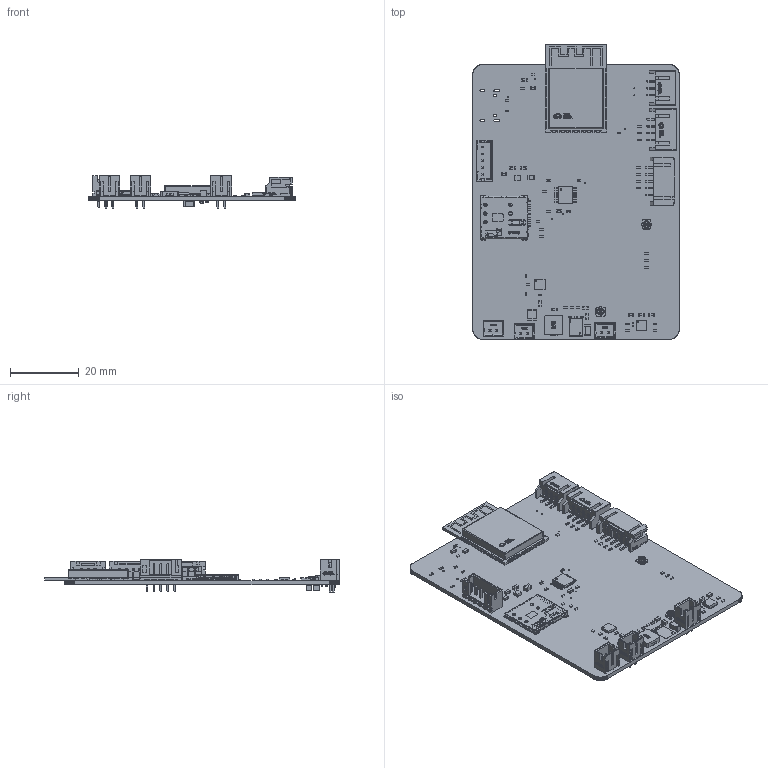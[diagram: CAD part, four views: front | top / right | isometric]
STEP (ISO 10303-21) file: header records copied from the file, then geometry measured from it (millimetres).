
FILE_DESCRIPTION(('Flux electronic assembly'),'2;1');
FILE_NAME('sim7670g-ai-voice-terminal.step','2026-08-27T21:06:52',( 'Flux'),('Flux'),'Flux STEP processor', 'Flux to STEP converter','Unknown');
FILE_SCHEMA(('AUTOMOTIVE_DESIGN { 1 0 10303 214 1 1 1 1 }'));
Length unit declared in the file: millimetre
Products named in the file (52): sim7670g-ai-voice-terminal 1; 3DSMD_0402_1005Metric-d919a960-746f-c955-fbea-1b7ba0394ff3; C_0402_1005Metric; 3DSMD_0603_1608Metric-b4a38289-62c0-b440-ad8d-38078632b68e; C_0603_1608Metric; 3DSMD_0402_1005Metric-f67a8003-8022-4cca-213f-88262e58f588; R_0402_1005Metric; 3DSMD_0805_2012Metric-d796f486-721b-8ee4-6c9f-f817c4ccdb82; L_0805_2012Metric; ESP32-S3-WROOM-1-N8R2-ESP32-S3-WROOM-1-N8R2.3dshapes-WIRELM-SMD_
ESP32-S3-WROOM-1-e26550e8-3694-40d5-9f7c-0b9ffa9419f8; WIRELM-SMD_ESP32-S3-WROOM-1; B2B-PH-K-S-LF--SN--B2B-PH-K-S-LF--SN-.3dshapes-CONN-TH_
PH2.00-LI-2P-827340b0-10e2-46db-9f57-f662a3acd58b; CONN-TH_PH2.00-LI-2P; TSSOP-14_4.4x5mm_P0.65mm-310732ec-6f9d-2a52-f921-f19bd74fcc2a; TSSOP_14_44x5mm_P065mm; S5B-PH-SM4-TB-LF--SN--S5B-PH-SM4-TB-LF--SN-.3dshapes-CONN-SMD_
S5B-PH-SM4-TB-LF-SN-748418ff-11bb-4f1b-a792-5fcd89f1ad8c; CONN-SMD_S5B-PH-SM4-TB-LF-SN; S3B-PH-SM4-TB-LF--SN--S3B-PH-SM4-TB-LF--SN-.3dshapes-CONN-SMD_
PH2.00-WS-3P-b12ac662-367f-495b-907a-c6886eb45302; CONN-SMD_PH2.00-WS-3P; U.FL-R-SMT-1_10_-b7201885-8c26-4f42-8768-9e48befc7bdf; U.FL-R-SMT(10); SIM8066-6-1-14-01-A-b3143bda-cfda-4757-a3f3-f270ecfa78c4.stp; SIM8066-6-1-14-01-A; SIM8066-6-1-14-01-A_PART2; SIM8066-6-1-14-01-A_PART1; 3DSMD_1206_3216Metric-a8e22f5b-0632-399f-a2e8-830354459607; C_1206_3216Metric; MHCI05030-2R2M-R8-MHCI05030-2R2M-R8.3dshapes-IND-SMD_
L5.7-W5.4-H1.5-2f0050a8-4340-4409-aef2-16083adc7b04; IND-SMD_L5.7-W5.4-H1.5; TPS6282533DMQR-3f4e75b6-7a52-444a-87c2-b246e5c119b4.stp; DMQ0006A_ASM; BODY-SON; FRAME-DMQ0006A; PIN1-ID; CS3225X7R226K250NRL-CS3225X7R226K250NRL.3dshapes-C1210_
L3.2-W2.5-H0.9-7aaa5f47-6a14-4c6a-9bf6-b99dc58966ae; C1210_L3.2-W2.5-H0.9; B5B-PH-K-S-LF--SN---3DModel-STEP-56544-3347362e-049f-4032-8aff-2a7c0fac
6a3b; B5B-PH-K-S(LF)(SN); LTC3113EDHD-TRPBF-LTC3113EDHD-TRPBF.3dshapes-DFN-16_
L5.0-W4.0-H0.8-P0.50-BL-EP-2b0871d8-2314-41a8-9c66-40242f059a4f; DFN-16_L5.0-W4.0-H0.8-P0.50-BL-EP ...
Assembly tree (111 placements, depth 4):
  sim7670g-ai-voice-terminal 1
    3DSMD_0402_1005Metric-d919a960-746f-c955-fbea-1b7ba0394ff3  x11
      C_0402_1005Metric
    3DSMD_0603_1608Metric-b4a38289-62c0-b440-ad8d-38078632b68e  x14
      C_0603_1608Metric
    3DSMD_0402_1005Metric-f67a8003-8022-4cca-213f-88262e58f588  x33
      R_0402_1005Metric
    3DSMD_0805_2012Metric-d796f486-721b-8ee4-6c9f-f817c4ccdb82
      L_0805_2012Metric
    ESP32-S3-WROOM-1-N8R2-ESP32-S3-WROOM-1-N8R2.3dshapes-WIRELM-SMD_
ESP32-S3-WROOM-1-e26550e8-3694-40d5-9f7c-0b9ffa9419f8
      WIRELM-SMD_ESP32-S3-WROOM-1
    B2B-PH-K-S-LF--SN--B2B-PH-K-S-LF--SN-.3dshapes-CONN-TH_
PH2.00-LI-2P-827340b0-10e2-46db-9f57-f662a3acd58b  x3
      CONN-TH_PH2.00-LI-2P
    TSSOP-14_4.4x5mm_P0.65mm-310732ec-6f9d-2a52-f921-f19bd74fcc2a
      TSSOP_14_44x5mm_P065mm
    S5B-PH-SM4-TB-LF--SN--S5B-PH-SM4-TB-LF--SN-.3dshapes-CONN-SMD_
S5B-PH-SM4-TB-LF-SN-748418ff-11bb-4f1b-a792-5fcd89f1ad8c
      CONN-SMD_S5B-PH-SM4-TB-LF-SN
    S3B-PH-SM4-TB-LF--SN--S3B-PH-SM4-TB-LF--SN-.3dshapes-CONN-SMD_
PH2.00-WS-3P-b12ac662-367f-495b-907a-c6886eb45302
      CONN-SMD_PH2.00-WS-3P
    U.FL-R-SMT-1_10_-b7201885-8c26-4f42-8768-9e48befc7bdf  x2
      U.FL-R-SMT(10)
    SIM8066-6-1-14-01-A-b3143bda-cfda-4757-a3f3-f270ecfa78c4.stp
      SIM8066-6-1-14-01-A
        SIM8066-6-1-14-01-A_PART2
        SIM8066-6-1-14-01-A_PART1
    3DSMD_1206_3216Metric-a8e22f5b-0632-399f-a2e8-830354459607  x3
      C_1206_3216Metric
    MHCI05030-2R2M-R8-MHCI05030-2R2M-R8.3dshapes-IND-SMD_
L5.7-W5.4-H1.5-2f0050a8-4340-4409-aef2-16083adc7b04
      IND-SMD_L5.7-W5.4-H1.5
    TPS6282533DMQR-3f4e75b6-7a52-444a-87c2-b246e5c119b4.stp
      DMQ0006A_ASM
        BODY-SON
        FRAME-DMQ0006A
        PIN1-ID
    CS3225X7R226K250NRL-CS3225X7R226K250NRL.3dshapes-C1210_
L3.2-W2.5-H0.9-7aaa5f47-6a14-4c6a-9bf6-b99dc58966ae
      C1210_L3.2-W2.5-H0.9
    B5B-PH-K-S-LF--SN---3DModel-STEP-56544-3347362e-049f-4032-8aff-2a7c0fac
6a3b
      B5B-PH-K-S(LF)(SN)
        B5B-PH-K-S(LF)(SN)
    LTC3113EDHD-TRPBF-LTC3113EDHD-TRPBF.3dshapes-DFN-16_
L5.0-W4.0-H0.8-P0.50-BL-EP-2b0871d8-2314-41a8-9c66-40242f059a4f
      DFN-16_L5.0-W4.0-H0.8-P0.50-BL-EP
    MAX98357AETE-T-a5f04008-1679-4d69-a712-effdb5294b97.stp
      ASSEMBLY
        Body
        ThermalPin
        PinsArrayLR
        PinsArrayTB
    BQ24074RGTR-ed98a5d6-ee61-4387-b213-57303fdf9170
      RGT16
    S4B-PH-SM4-TB-LF--SN--S4B-PH-SM4-TB-LF--SN-.3dshapes-CONN-SMD_
PH2.00-WS-4P-cea47690-caa9-4c36-a5c8-b6dcdebfbc0b
      CONN-SMD_PH2.00-WS-4P
    input_PCB
Bounding box: 60 x 85.75 x 9.5 mm (x, y, z)
Volume: 7949 mm3; surface area: 16702 mm2
Topology: 249 solids, 1614 shells, 10546 faces, 33127 edges, 24470 vertices
Faces by surface type: plane 7138, cylinder 2022, bspline 1294, torus 46, sphere 28, cone 18
Full cylindrical faces by diameter (mm): 0.3 x16, 0.375 x1, 0.5 x1, 0.6 x4, 0.75 x4, 0.813 x5, 0.9 x6, 1 x16, 1.5 x6
Entity records: 361158 total; most frequent: CARTESIAN_POINT 89053, ORIENTED_EDGE 44367, DIRECTION 39912, EDGE_CURVE 26694, VERTEX_POINT 20251, LINE 18776, VECTOR 18776, AXIS2_PLACEMENT_3D 10568
